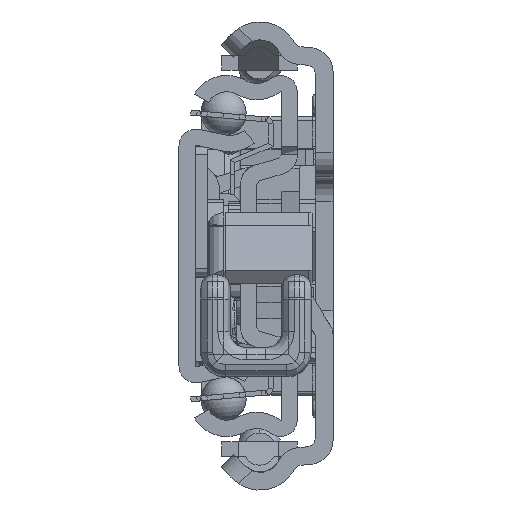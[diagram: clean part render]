
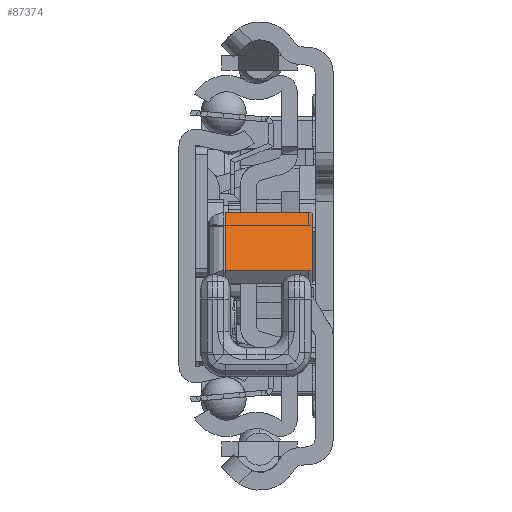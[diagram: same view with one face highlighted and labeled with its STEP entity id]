
A CAD part, left-side view. The second image highlights one B-rep face of the part: STEP entity #87374.
In plain terms, the highlighted planar face has unit normal (-0.597, 0, 0.802) as drawn and (-0.597, -0.802, 0) by its records, which use the part's own axes.
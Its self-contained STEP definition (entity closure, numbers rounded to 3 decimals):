
#86762=DIRECTION('',(0.802,-0.597,0.));
#86763=VECTOR('',#86762,12.);
#86764=CARTESIAN_POINT('',(31.957,-10.314,-0.2));
#86765=LINE('',#86764,#86763);
#86790=DIRECTION('',(0.,0.,1.));
#86791=VECTOR('',#86790,10.3);
#86792=CARTESIAN_POINT('',(41.586,-17.476,-10.5));
#86793=LINE('',#86792,#86791);
#86794=CARTESIAN_POINT('',(41.184,-17.178,-10.5));
#86795=DIRECTION('',(-0.597,-0.802,0.));
#86796=DIRECTION('',(0.,0.,-1.));
#86797=AXIS2_PLACEMENT_3D('',#86794,#86795,#86796);
#86799=DIRECTION('',(0.802,-0.597,0.));
#86800=VECTOR('',#86799,11.);
#86801=CARTESIAN_POINT('',(32.358,-10.613,-11.));
#86802=LINE('',#86801,#86800);
#86803=CARTESIAN_POINT('',(32.358,-10.613,-10.5));
#86804=DIRECTION('',(-0.597,-0.802,0.));
#86805=DIRECTION('',(-0.802,0.597,0.));
#86806=AXIS2_PLACEMENT_3D('',#86803,#86804,#86805);
#86808=DIRECTION('',(0.,0.,-1.));
#86809=VECTOR('',#86808,10.3);
#86810=CARTESIAN_POINT('',(31.957,-10.314,-0.2));
#86811=LINE('',#86810,#86809);
#87028=CARTESIAN_POINT('',(31.957,-10.314,-0.2));
#87029=CARTESIAN_POINT('',(41.586,-17.476,-0.2));
#87030=VERTEX_POINT('',#87028);
#87031=VERTEX_POINT('',#87029);
#87060=CARTESIAN_POINT('',(41.586,-17.476,-10.5));
#87061=VERTEX_POINT('',#87060);
#87062=CARTESIAN_POINT('',(32.358,-10.613,-11.));
#87063=CARTESIAN_POINT('',(41.184,-17.178,-11.));
#87064=VERTEX_POINT('',#87062);
#87065=VERTEX_POINT('',#87063);
#87066=CARTESIAN_POINT('',(31.957,-10.314,-10.5));
#87067=VERTEX_POINT('',#87066);
#87356=CARTESIAN_POINT('',(34.726,-12.374,2.));
#87357=DIRECTION('',(0.597,0.802,0.));
#87358=DIRECTION('',(0.802,-0.597,0.));
#87359=AXIS2_PLACEMENT_3D('',#87356,#87357,#87358);
#87360=PLANE('',#87359);
#87362=ORIENTED_EDGE('',*,*,#87361,.F.);
#87364=ORIENTED_EDGE('',*,*,#87363,.F.);
#87366=ORIENTED_EDGE('',*,*,#87365,.F.);
#87368=ORIENTED_EDGE('',*,*,#87367,.F.);
#87370=ORIENTED_EDGE('',*,*,#87369,.F.);
#87371=ORIENTED_EDGE('',*,*,#87343,.T.);
#87372=EDGE_LOOP('',(#87362,#87364,#87366,#87368,#87370,#87371));
#87373=FACE_OUTER_BOUND('',#87372,.F.);
#86798=CIRCLE('',#86797,0.5);
#86807=CIRCLE('',#86806,0.5);
#87343=EDGE_CURVE('',#87030,#87031,#86765,.T.);
#87361=EDGE_CURVE('',#87061,#87031,#86793,.T.);
#87363=EDGE_CURVE('',#87065,#87061,#86798,.T.);
#87365=EDGE_CURVE('',#87064,#87065,#86802,.T.);
#87367=EDGE_CURVE('',#87067,#87064,#86807,.T.);
#87369=EDGE_CURVE('',#87030,#87067,#86811,.T.);
#87374=ADVANCED_FACE('',(#87373),#87360,.F.);
